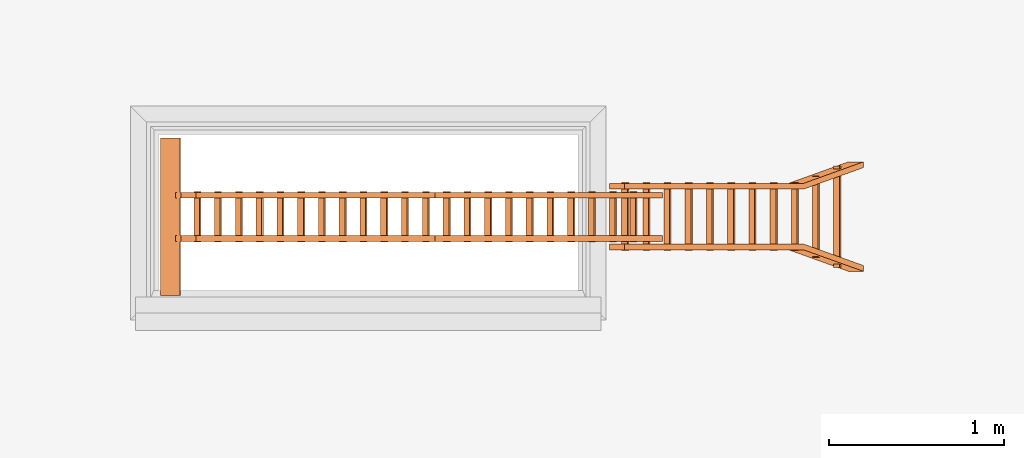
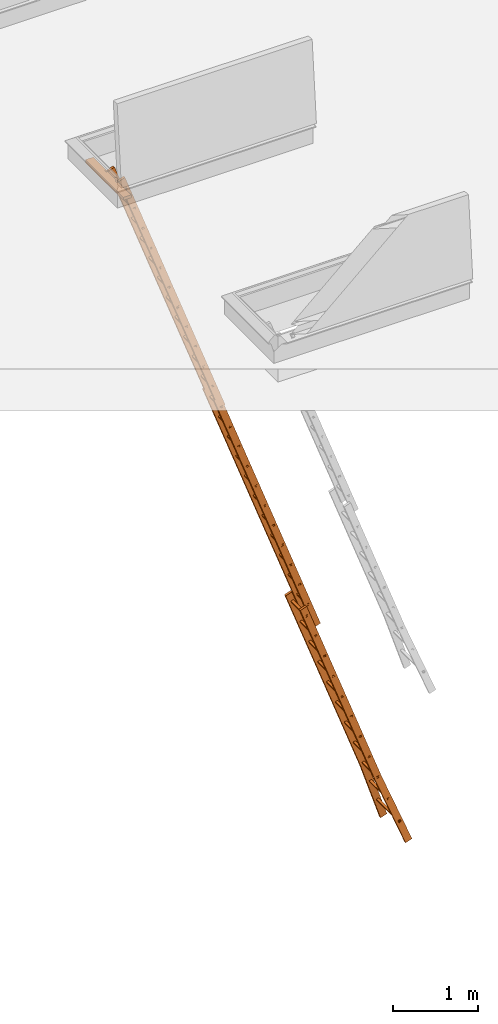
# One storey, part 5 of 28: 1 proxy, 2 openings.
"""IFC2X3 building model written with IfcOpenShell, lengths in millimetres."""

from ifc_helpers import new_model, entity, si_unit, converted_unit, derived_unit, direction, frame, frame_2d, origin, origin_2d_with_axis, place, context, subcontext, project, spatial, polyline, circle_curve, parameter, trimmed, segment, composite_curve, rectangle, outline, extrude, source, transform, mapped, type_object, type_shapes, element, save


model = new_model("IFC2X3")

# Units and contexts
model_context = context("Model", 3, precision=0.01, world=origin(), true_north=direction((6.12303176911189e-17, 1.0)))
body_context = subcontext(model_context, "Body", "Model", "MODEL_VIEW")
ifc_project = project(units=[si_unit("LENGTHUNIT", "METRE", prefix="MILLI"), si_unit("AREAUNIT", "SQUARE_METRE"), si_unit("VOLUMEUNIT", "CUBIC_METRE"), converted_unit("PLANEANGLEUNIT", "DEGREE", entity("IfcRatioMeasure", 0.0174532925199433), si_unit("PLANEANGLEUNIT", "RADIAN"), dimensions=[0, 0, 0, 0, 0, 0, 0]), si_unit("MASSUNIT", "GRAM", prefix="KILO"), derived_unit("MASSDENSITYUNIT", [(si_unit("MASSUNIT", "GRAM", prefix="KILO"), 1), (si_unit("LENGTHUNIT", "METRE"), -3)]), si_unit("TIMEUNIT", "SECOND"), si_unit("FREQUENCYUNIT", "HERTZ"), si_unit("THERMODYNAMICTEMPERATUREUNIT", "DEGREE_CELSIUS"), derived_unit("THERMALTRANSMITTANCEUNIT", [(si_unit("MASSUNIT", "GRAM", prefix="KILO"), 1), (si_unit("THERMODYNAMICTEMPERATUREUNIT", "KELVIN"), -1), (si_unit("TIMEUNIT", "SECOND"), -3)]), derived_unit("VOLUMETRICFLOWRATEUNIT", [(si_unit("LENGTHUNIT", "METRE"), 3), (si_unit("TIMEUNIT", "SECOND"), -1)]), si_unit("ELECTRICCURRENTUNIT", "AMPERE"), si_unit("ELECTRICVOLTAGEUNIT", "VOLT"), si_unit("POWERUNIT", "WATT"), si_unit("FORCEUNIT", "NEWTON", prefix="KILO"), si_unit("ILLUMINANCEUNIT", "LUX"), si_unit("LUMINOUSFLUXUNIT", "LUMEN"), si_unit("LUMINOUSINTENSITYUNIT", "CANDELA"), derived_unit("USERDEFINED", [(si_unit("MASSUNIT", "GRAM", prefix="KILO"), -1), (si_unit("LENGTHUNIT", "METRE"), -2), (si_unit("TIMEUNIT", "SECOND"), 3), (si_unit("LUMINOUSFLUXUNIT", "LUMEN"), 1)]), derived_unit("LINEARVELOCITYUNIT", [(si_unit("LENGTHUNIT", "METRE"), 1), (si_unit("TIMEUNIT", "SECOND"), -1)]), si_unit("PRESSUREUNIT", "PASCAL"), derived_unit("USERDEFINED", [(si_unit("LENGTHUNIT", "METRE"), -2), (si_unit("MASSUNIT", "GRAM", prefix="KILO"), 1), (si_unit("TIMEUNIT", "SECOND"), -2)])], contexts=[model_context])

# Site, building, storey
site_placement = place(None, origin())
site = spatial("IfcSite", under=ifc_project, at=site_placement, Name="Default", CompositionType="ELEMENT")
building_placement = place(site_placement, origin())
building = spatial("IfcBuilding", under=site, at=building_placement, CompositionType="ELEMENT")
storey_placement = place(building_placement, frame((0.0, 0.0, 4000.0)))
storey = spatial("IfcBuildingStorey", under=building, at=storey_placement, Name="Level 2", CompositionType="ELEMENT", Elevation=4000.0)

# Proxy, openings
building_element_proxy_type = type_object("IfcBuildingElementProxyType", Name="9_Topaccess_Trap_3delige1", PredefinedType="NOTDEFINED")
shared_shape = source(origin(), body_context, "Body", "SweptSolid", [
    extrude(outline(composite_curve([segment(polyline([(-20.0, -72.6666666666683), (20.0, -72.6666666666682)]), True, "CONTINUOUS"), segment(polyline([(20.0, -72.6666666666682), (20.0, 31.8333333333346)]), True, "CONTINUOUS"), segment(trimmed(circle_curve(frame_2d((11.0, 31.8333333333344), x_axis=(0.939692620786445, -0.342020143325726)), 8.99999999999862), [parameter(20.0000000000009)], [parameter(109.999999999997)], True, "PARAMETER"), True, "CONTINUOUS"), segment(polyline([(11.0, 40.8333333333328), (-11.0, 40.833333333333)]), True, "CONTINUOUS"), segment(trimmed(circle_curve(frame_2d((-11.0, 31.8333333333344), x_axis=(0.939692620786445, -0.342020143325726)), 8.99999999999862), [parameter(109.999999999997)], [parameter(199.999999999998)], True, "PARAMETER"), True, "CONTINUOUS"), segment(polyline([(-20.0, 31.8333333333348), (-20.0, -72.6666666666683)]), True, "CONTINUOUS")], self_intersect=False)), frame((-484.291584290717, 5437.00468660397, 85.555153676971), z_axis=(1.0, 0.0, 0.0), x_axis=(0.0, 0.939692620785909, 0.342020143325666)), (0.0, 0.0, 1.0), 900.0),
    extrude(outline(composite_curve([segment(polyline([(34.5620685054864, -17.3803405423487), (-85.4379314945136, -17.3803405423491)]), True, "CONTINUOUS"), segment(polyline([(-85.4379314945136, -17.3803405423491), (-85.4379314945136, -20.3803405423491)]), True, "CONTINUOUS"), segment(polyline([(-85.4379314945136, -20.3803405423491), (34.8237042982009, -20.3803405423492)]), True, "CONTINUOUS"), segment(trimmed(circle_curve(frame_2d((31.2529900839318, 0.719659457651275), x_axis=(1.0, 0.0)), 21.4), [parameter(279.605058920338)], [parameter(66.7401617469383)], True, "PARAMETER"), True, "CONTINUOUS"), segment(polyline([(39.7038846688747, 20.3803405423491), (11.3620685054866, 20.380340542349)]), True, "CONTINUOUS"), segment(polyline([(11.3620685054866, 20.380340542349), (11.3620685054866, 17.380340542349)]), True, "CONTINUOUS"), segment(polyline([(11.3620685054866, 17.380340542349), (39.0620685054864, 17.3803405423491)]), True, "CONTINUOUS"), segment(trimmed(circle_curve(frame_2d((31.2529900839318, 0.719659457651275), x_axis=(1.0, 0.0)), 18.4), [parameter(280.36051137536)], [parameter(64.8869014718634)], True, "PARAMETER"), False, "CONTINUOUS")], self_intersect=False)), frame((72.0, 5400.1320556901, 113.619659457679), z_axis=(-1.0, 0.0, 0.0), x_axis=(0.0, 1.0, 0.0)), (0.0, 0.0, -1.0), 33.0),
    extrude(outline(composite_curve([segment(polyline([(-85.4379314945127, -17.3803405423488), (-85.4379314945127, -20.3803405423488)]), True, "CONTINUOUS"), segment(polyline([(-85.4379314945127, -20.3803405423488), (34.8237042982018, -20.3803405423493)]), True, "CONTINUOUS"), segment(trimmed(circle_curve(frame_2d((31.2529900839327, 0.719659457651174), x_axis=(1.0, 0.0)), 21.4), [parameter(279.605058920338)], [parameter(66.7401617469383)], True, "PARAMETER"), True, "CONTINUOUS"), segment(polyline([(39.7038846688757, 20.380340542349), (11.3620685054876, 20.380340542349)]), True, "CONTINUOUS"), segment(polyline([(11.3620685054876, 20.380340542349), (11.3620685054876, 17.380340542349)]), True, "CONTINUOUS"), segment(polyline([(11.3620685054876, 17.380340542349), (39.0620685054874, 17.380340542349)]), True, "CONTINUOUS"), segment(trimmed(circle_curve(frame_2d((31.2529900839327, 0.719659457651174), x_axis=(1.0, 0.0)), 18.4), [parameter(280.36051137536)], [parameter(64.8869014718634)], True, "PARAMETER"), False, "CONTINUOUS"), segment(polyline([(34.5620685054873, -17.3803405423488), (-85.4379314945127, -17.3803405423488)]), True, "CONTINUOUS")], self_intersect=False)), frame((-175.0, 5400.13205569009, 113.619659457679), z_axis=(-1.0, 0.0, 0.0), x_axis=(0.0, 1.0, 0.0)), (0.0, 0.0, -1.0), 33.0000000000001),
    extrude(outline(polyline([(-11.5216143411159, -16.5), (13.8405381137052, -16.5), (13.8405381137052, 16.4999999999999), (-16.1594618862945, 16.5), (-11.5216143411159, -16.5)]), holes=[polyline([(8.84053811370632, -11.5), (-7.1751806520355, -11.5), (-10.4076198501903, 11.5000000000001), (8.84053811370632, 11.5), (8.84053811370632, -11.5)])]), frame((-178.583168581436, 1440.72573419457, 171.084388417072), z_axis=(1.0, 0.0, 0.0), x_axis=(0.0, -1.0, 0.0)), (0.0, 0.0, 1.0), 288.583168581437),
    extrude(outline(polyline([(-11.5216143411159, -16.5), (13.8405381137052, -16.5), (13.8405381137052, 16.4999999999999), (-16.1594618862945, 16.5), (-11.5216143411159, -16.5)]), holes=[polyline([(8.84053811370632, -11.5), (-7.1751806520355, -11.5), (-10.4076198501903, 11.5000000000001), (8.84053811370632, 11.5), (8.84053811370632, -11.5)])]), frame((-178.583168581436, 1093.22573419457, 171.084388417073), z_axis=(1.0, 0.0, 0.0), x_axis=(0.0, -1.0, 0.0)), (0.0, 0.0, 1.0), 288.583168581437),
    extrude(outline(polyline([(-11.5216143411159, -16.5), (13.8405381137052, -16.5), (13.8405381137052, 16.4999999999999), (-16.1594618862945, 16.5), (-11.5216143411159, -16.5)]), holes=[polyline([(8.84053811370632, -11.5), (-7.1751806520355, -11.5), (-10.4076198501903, 11.5000000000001), (8.84053811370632, 11.5), (8.84053811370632, -11.5)])]), frame((-178.583168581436, 745.725734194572, 171.084388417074), z_axis=(1.0, 0.0, 0.0), x_axis=(0.0, -1.0, 0.0)), (0.0, 0.0, 1.0), 288.583168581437),
    extrude(outline(polyline([(-11.5216143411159, -16.5), (13.8405381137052, -16.5), (13.8405381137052, 16.4999999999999), (-16.1594618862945, 16.5), (-11.5216143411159, -16.5)]), holes=[polyline([(8.84053811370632, -11.5), (-7.1751806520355, -11.5), (-10.4076198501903, 11.5000000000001), (8.84053811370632, 11.5), (8.84053811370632, -11.5)])]), frame((-178.583168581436, 398.225734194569, 171.084388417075), z_axis=(1.0, 0.0, 0.0), x_axis=(0.0, -1.0, 0.0)), (0.0, 0.0, 1.0), 288.583168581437),
    extrude(outline(polyline([(-11.5216143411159, -16.5), (13.8405381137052, -16.5), (13.8405381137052, 16.4999999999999), (-16.1594618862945, 16.5), (-11.5216143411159, -16.5)]), holes=[polyline([(8.84053811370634, -11.5), (-7.17518065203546, -11.5), (-10.4076198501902, 11.5000000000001), (8.84053811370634, 11.5), (8.84053811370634, -11.5)])]), frame((-178.583168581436, 50.7257341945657, 171.084388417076), z_axis=(1.0, 0.0, 0.0), x_axis=(0.0, -1.0, 0.0)), (0.0, 0.0, 1.0), 288.583168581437),
    extrude(outline(polyline([(-11.5216143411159, -16.5), (13.8405381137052, -16.5), (13.8405381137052, 16.4999999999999), (-16.1594618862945, 16.5), (-11.5216143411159, -16.5)]), holes=[polyline([(8.84053811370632, -11.5), (-7.17518065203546, -11.5), (-10.4076198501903, 11.5000000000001), (8.84053811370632, 11.5), (8.84053811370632, -11.5)])]), frame((-178.583168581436, -296.774265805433, 171.084388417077), z_axis=(1.0, 0.0, 0.0), x_axis=(0.0, -1.0, 0.0)), (0.0, 0.0, 1.0), 288.583168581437),
    extrude(outline(polyline([(-11.5216143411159, -16.5), (13.8405381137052, -16.5), (13.8405381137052, 16.4999999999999), (-16.1594618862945, 16.5), (-11.5216143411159, -16.5)]), holes=[polyline([(8.84053811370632, -11.5), (-7.1751806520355, -11.5), (-10.4076198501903, 11.5000000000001), (8.84053811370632, 11.5), (8.84053811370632, -11.5)])]), frame((-178.583168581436, -644.274265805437, 171.084388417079), z_axis=(1.0, 0.0, 0.0), x_axis=(0.0, -1.0, 0.0)), (0.0, 0.0, 1.0), 288.583168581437),
    extrude(outline(polyline([(-11.5216143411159, -16.5), (13.8405381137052, -16.5), (13.8405381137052, 16.4999999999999), (-16.1594618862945, 16.5), (-11.5216143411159, -16.5)]), holes=[polyline([(8.84053811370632, -11.5), (-7.1751806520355, -11.5), (-10.4076198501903, 11.5000000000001), (8.84053811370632, 11.5), (8.84053811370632, -11.5)])]), frame((-178.583168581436, -991.774265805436, 171.08438841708), z_axis=(1.0, 0.0, 0.0), x_axis=(0.0, -1.0, 0.0)), (0.0, 0.0, 1.0), 288.583168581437),
    extrude(outline(polyline([(-11.5216143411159, -16.5), (13.8405381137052, -16.5), (13.8405381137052, 16.4999999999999), (-16.1594618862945, 16.5), (-11.5216143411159, -16.5)]), holes=[polyline([(8.84053811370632, -11.5), (-7.1751806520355, -11.5), (-10.4076198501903, 11.5000000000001), (8.84053811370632, 11.5), (8.84053811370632, -11.5)])]), frame((-178.583168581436, -1339.27426580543, 171.084388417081), z_axis=(1.0, 0.0, 0.0), x_axis=(0.0, -1.0, 0.0)), (0.0, 0.0, 1.0), 288.583168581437),
    extrude(outline(polyline([(-11.5216143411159, -16.4999999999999), (13.8405381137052, -16.4999999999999), (13.8405381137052, 16.4999999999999), (-16.1594618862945, 16.5), (-11.5216143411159, -16.4999999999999)]), holes=[polyline([(8.84053811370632, -11.5), (-7.1751806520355, -11.5), (-10.4076198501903, 11.5000000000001), (8.84053811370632, 11.5), (8.84053811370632, -11.5)])]), frame((-178.583168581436, -1686.77426580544, 171.084388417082), z_axis=(1.0, 0.0, 0.0), x_axis=(0.0, -1.0, 0.0)), (0.0, 0.0, 1.0), 288.583168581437),
    extrude(rectangle(XDim=33.0, YDim=4000.0, at=origin_2d_with_axis()), frame((88.5000000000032, -399.911054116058, 120.0), z_axis=(0.0, 0.0, 1.0), x_axis=(-1.0, 0.0, 0.0)), (0.0, 0.0, 1.0), 92.0),
    extrude(rectangle(XDim=33.0, YDim=4000.0, at=frame_2d((8.88178419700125e-15, 0.0), x_axis=(1.0, 0.0))), frame((-158.499999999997, -399.911054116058, 120.0), z_axis=(0.0, 0.0, 1.0), x_axis=(-1.0, 0.0, 0.0)), (0.0, 0.0, 1.0), 92.0),
    extrude(rectangle(XDim=33.0, YDim=4000.0, at=origin_2d_with_axis()), frame((88.5000000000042, 3440.6557599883, 134.0), z_axis=(0.0, 0.0, 1.0), x_axis=(-1.0, 0.0, 0.0)), (0.0, 0.0, 1.0), 90.0),
    extrude(rectangle(XDim=33.0, YDim=4000.0, at=frame_2d((8.88178419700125e-15, -5.6843418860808e-13), x_axis=(1.0, 0.0))), frame((-158.499999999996, 3440.6557599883, 134.0), z_axis=(0.0, 0.0, 1.0), x_axis=(-1.0, 0.0, 0.0)), (0.0, 0.0, 1.0), 90.0),
    extrude(outline(polyline([(-11.5216143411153, -16.5), (13.8405381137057, -16.5), (13.8405381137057, 16.5), (-16.159461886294, 16.5000000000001), (-11.5216143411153, -16.5)]), holes=[polyline([(8.84053811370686, -11.5), (-7.17518065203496, -11.5), (-10.4076198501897, 11.5), (8.84053811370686, 11.5), (8.84053811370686, -11.5)])]), frame((-178.583168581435, 5281.29254829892, 176.084388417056), z_axis=(1.0, 0.0, 0.0), x_axis=(0.0, -1.0, 0.0)), (0.0, 0.0, 1.0), 288.583168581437),
    extrude(outline(polyline([(-11.5216143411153, -16.5), (13.8405381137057, -16.5), (13.8405381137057, 16.5), (-16.159461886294, 16.5000000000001), (-11.5216143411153, -16.5)]), holes=[polyline([(8.84053811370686, -11.5), (-7.17518065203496, -11.5), (-10.4076198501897, 11.5), (8.84053811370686, 11.5), (8.84053811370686, -11.5)])]), frame((-178.583168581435, 4933.79254829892, 176.084388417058), z_axis=(1.0, 0.0, 0.0), x_axis=(0.0, -1.0, 0.0)), (0.0, 0.0, 1.0), 288.583168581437),
    extrude(outline(polyline([(-11.5216143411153, -16.5), (13.8405381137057, -16.5), (13.8405381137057, 16.5), (-16.159461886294, 16.5000000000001), (-11.5216143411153, -16.5)]), holes=[polyline([(8.84053811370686, -11.5), (-7.17518065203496, -11.5), (-10.4076198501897, 11.5), (8.84053811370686, 11.5), (8.84053811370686, -11.5)])]), frame((-178.583168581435, 4586.29254829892, 176.084388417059), z_axis=(1.0, 0.0, 0.0), x_axis=(0.0, -1.0, 0.0)), (0.0, 0.0, 1.0), 288.583168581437),
    extrude(outline(polyline([(-11.5216143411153, -16.5), (13.8405381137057, -16.5), (13.8405381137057, 16.4999999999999), (-16.159461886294, 16.5), (-11.5216143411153, -16.5)]), holes=[polyline([(8.84053811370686, -11.5), (-7.17518065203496, -11.5), (-10.4076198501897, 11.5), (8.84053811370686, 11.4999999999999), (8.84053811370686, -11.5)])]), frame((-178.583168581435, 4238.79254829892, 176.08438841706), z_axis=(1.0, 0.0, 0.0), x_axis=(0.0, -1.0, 0.0)), (0.0, 0.0, 1.0), 288.583168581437),
    extrude(outline(polyline([(-11.5216143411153, -16.5), (13.8405381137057, -16.5), (13.8405381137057, 16.5), (-16.159461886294, 16.5000000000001), (-11.5216143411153, -16.5)]), holes=[polyline([(8.84053811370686, -11.5), (-7.17518065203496, -11.5), (-10.4076198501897, 11.5), (8.84053811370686, 11.5), (8.84053811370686, -11.5)])]), frame((-178.583168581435, 3891.29254829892, 176.084388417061), z_axis=(1.0, 0.0, 0.0), x_axis=(0.0, -1.0, 0.0)), (0.0, 0.0, 1.0), 288.583168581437),
    extrude(outline(polyline([(-11.5216143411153, -16.5), (13.8405381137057, -16.5), (13.8405381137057, 16.5), (-16.159461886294, 16.5000000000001), (-11.5216143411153, -16.5)]), holes=[polyline([(8.84053811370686, -11.5), (-7.17518065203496, -11.5), (-10.4076198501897, 11.5), (8.84053811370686, 11.5), (8.84053811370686, -11.5)])]), frame((-178.583168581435, 3543.79254829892, 176.084388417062), z_axis=(1.0, 0.0, 0.0), x_axis=(0.0, -1.0, 0.0)), (0.0, 0.0, 1.0), 288.583168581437),
    extrude(outline(polyline([(-11.5216143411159, -16.5), (13.8405381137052, -16.5), (13.8405381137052, 16.4999999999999), (-16.1594618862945, 16.5), (-11.5216143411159, -16.5)]), holes=[polyline([(8.84053811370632, -11.5), (-7.1751806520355, -11.5), (-10.4076198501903, 11.5), (8.84053811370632, 11.5), (8.84053811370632, -11.5)])]), frame((-178.583168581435, 3196.29254829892, 176.084388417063), z_axis=(1.0, 0.0, 0.0), x_axis=(0.0, -1.0, 0.0)), (0.0, 0.0, 1.0), 288.583168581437),
    extrude(outline(polyline([(-11.5216143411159, -16.5), (13.8405381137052, -16.5), (13.8405381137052, 16.4999999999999), (-16.1594618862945, 16.5), (-11.5216143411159, -16.5)]), holes=[polyline([(8.84053811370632, -11.5), (-7.1751806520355, -11.5), (-10.4076198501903, 11.5), (8.84053811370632, 11.5), (8.84053811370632, -11.5)])]), frame((-178.583168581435, 2848.79254829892, 176.084388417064), z_axis=(1.0, 0.0, 0.0), x_axis=(0.0, -1.0, 0.0)), (0.0, 0.0, 1.0), 288.583168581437),
    extrude(outline(polyline([(-11.5216143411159, -16.5), (13.8405381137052, -16.5), (13.8405381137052, 16.5), (-16.1594618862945, 16.5000000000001), (-11.5216143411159, -16.5)]), holes=[polyline([(8.84053811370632, -11.5), (-7.1751806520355, -11.5), (-10.4076198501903, 11.5000000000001), (8.84053811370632, 11.5), (8.84053811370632, -11.5)])]), frame((-178.583168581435, 2501.29254829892, 176.084388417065), z_axis=(1.0, 0.0, 0.0), x_axis=(0.0, -1.0, 0.0)), (0.0, 0.0, 1.0), 288.583168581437),
    extrude(outline(polyline([(-11.5216143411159, -16.5), (13.8405381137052, -16.5), (13.8405381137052, 16.5), (-16.1594618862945, 16.5000000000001), (-11.5216143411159, -16.5)]), holes=[polyline([(8.84053811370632, -11.5), (-7.1751806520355, -11.5), (-10.4076198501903, 11.5), (8.84053811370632, 11.5), (8.84053811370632, -11.5)])]), frame((-178.583168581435, 2153.79254829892, 176.084388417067), z_axis=(1.0, 0.0, 0.0), x_axis=(0.0, -1.0, 0.0)), (0.0, 0.0, 1.0), 288.583168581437),
    extrude(outline(polyline([(-11.5216143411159, -16.5), (13.8405381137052, -16.5), (13.8405381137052, 16.4999999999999), (-16.1594618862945, 16.5), (-11.5216143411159, -16.5)]), holes=[polyline([(8.84053811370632, -11.5), (-7.1751806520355, -11.5), (-10.4076198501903, 11.5), (8.84053811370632, 11.5), (8.84053811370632, -11.5)])]), frame((-178.583168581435, 1806.29254829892, 176.084388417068), z_axis=(1.0, 0.0, 0.0), x_axis=(0.0, -1.0, 0.0)), (0.0, 0.0, 1.0), 288.583168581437),
    extrude(outline(polyline([(-11.5216143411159, -16.5), (13.8405381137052, -16.5), (13.8405381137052, 16.4999999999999), (-16.1594618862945, 16.5), (-11.5216143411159, -16.5)]), holes=[polyline([(8.84053811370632, -11.5), (-7.1751806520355, -11.5), (-10.4076198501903, 11.5), (8.84053811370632, 11.5), (8.84053811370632, -11.5)])]), frame((-227.077291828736, -2129.53575748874, 85.0843884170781), z_axis=(1.0, 0.0, 0.0), x_axis=(0.0, -1.0, 0.0)), (0.0, 0.0, 1.0), 389.077291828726),
    extrude(outline(polyline([(-11.5216143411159, -16.5), (13.8405381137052, -16.5), (13.8405381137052, 16.5), (-16.1594618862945, 16.5), (-11.5216143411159, -16.5)]), holes=[polyline([(8.84053811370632, -11.5), (-7.1751806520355, -11.5), (-10.4076198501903, 11.5), (8.84053811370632, 11.5), (8.84053811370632, -11.5)])]), frame((-227.077291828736, -2484.53575748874, 85.0843884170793), z_axis=(1.0, 0.0, 0.0), x_axis=(0.0, -1.0, 0.0)), (0.0, 0.0, 1.0), 389.077291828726),
    extrude(outline(polyline([(-11.5216143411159, -16.5), (13.8405381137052, -16.5), (13.8405381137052, 16.4999999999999), (-16.1594618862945, 16.5), (-11.5216143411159, -16.5)]), holes=[polyline([(8.84053811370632, -11.5), (-7.1751806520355, -11.5), (-10.4076198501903, 11.5), (8.84053811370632, 11.5), (8.84053811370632, -11.5)])]), frame((-227.077291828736, -2839.53575748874, 85.0843884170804), z_axis=(1.0, 0.0, 0.0), x_axis=(0.0, -1.0, 0.0)), (0.0, 0.0, 1.0), 389.077291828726),
    extrude(outline(polyline([(-11.5216143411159, -16.5), (13.8405381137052, -16.5), (13.8405381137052, 16.4999999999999), (-16.1594618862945, 16.5), (-11.5216143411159, -16.5)]), holes=[polyline([(8.84053811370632, -11.5), (-7.1751806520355, -11.5), (-10.4076198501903, 11.5000000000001), (8.84053811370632, 11.5), (8.84053811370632, -11.5)])]), frame((-178.583168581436, -2034.27426580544, 171.084388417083), z_axis=(1.0, 0.0, 0.0), x_axis=(0.0, -1.0, 0.0)), (0.0, 0.0, 1.0), 288.583168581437),
    extrude(outline(polyline([(-11.5216143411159, -16.5), (13.8405381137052, -16.5), (13.8405381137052, 16.4999999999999), (-16.1594618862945, 16.5), (-11.5216143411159, -16.5)]), holes=[polyline([(8.84053811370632, -11.5), (-7.1751806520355, -11.5), (-10.4076198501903, 11.5), (8.84053811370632, 11.5), (8.84053811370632, -11.5)])]), frame((-227.077291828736, -3194.53575748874, 85.0843884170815), z_axis=(1.0, 0.0, 0.0), x_axis=(0.0, -1.0, 0.0)), (0.0, 0.0, 1.0), 389.077291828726),
    extrude(outline(polyline([(-11.5216143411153, -16.5), (13.8405381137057, -16.5), (13.8405381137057, 16.4999999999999), (-16.159461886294, 16.5), (-11.5216143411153, -16.5)]), holes=[polyline([(8.84053811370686, -11.5), (-7.17518065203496, -11.5), (-10.4076198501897, 11.5), (8.84053811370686, 11.5), (8.84053811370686, -11.5)])]), frame((-227.077291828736, -3549.53575748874, 85.0843884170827), z_axis=(1.0, 0.0, 0.0), x_axis=(0.0, -1.0, 0.0)), (0.0, 0.0, 1.0), 389.077291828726),
    extrude(outline(polyline([(-11.5216143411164, -16.5), (13.8405381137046, -16.5), (13.8405381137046, 16.5), (-16.159461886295, 16.5), (-11.5216143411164, -16.5)]), holes=[polyline([(8.84053811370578, -11.5), (-7.17518065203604, -11.5), (-10.4076198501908, 11.5), (8.84053811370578, 11.5), (8.84053811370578, -11.5)])]), frame((-227.077291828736, -3904.53575748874, 85.0843884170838), z_axis=(1.0, 0.0, 0.0), x_axis=(0.0, -1.0, 0.0)), (0.0, 0.0, 1.0), 389.077291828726),
    extrude(outline(polyline([(-11.5216143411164, -16.5), (13.8405381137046, -16.5), (13.8405381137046, 16.5), (-16.159461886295, 16.5000000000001), (-11.5216143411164, -16.5)]), holes=[polyline([(8.84053811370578, -11.5), (-7.17518065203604, -11.5), (-10.4076198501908, 11.5000000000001), (8.84053811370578, 11.5), (8.84053811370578, -11.5)])]), frame((-227.077291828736, -4259.53575748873, 85.084388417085), z_axis=(1.0, 0.0, 0.0), x_axis=(0.0, -1.0, 0.0)), (0.0, 0.0, 1.0), 389.077291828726),
    extrude(outline(polyline([(-11.5216143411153, -16.5), (13.8405381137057, -16.5), (13.8405381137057, 16.5), (-16.159461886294, 16.5000000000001), (-11.5216143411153, -16.5)]), holes=[polyline([(8.84053811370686, -11.5), (-7.17518065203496, -11.5), (-10.4076198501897, 11.5000000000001), (8.84053811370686, 11.5), (8.84053811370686, -11.5)])]), frame((-227.077291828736, -4614.53575748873, 85.0843884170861), z_axis=(1.0, 0.0, 0.0), x_axis=(0.0, -1.0, 0.0)), (0.0, 0.0, 1.0), 389.077291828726),
    extrude(outline(polyline([(-11.5216143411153, -16.5), (13.8405381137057, -16.5), (13.8405381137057, 16.5), (-16.159461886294, 16.5000000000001), (-11.5216143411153, -16.5)]), holes=[polyline([(8.84053811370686, -11.5), (-7.17518065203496, -11.5), (-10.4076198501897, 11.5000000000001), (8.84053811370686, 11.5), (8.84053811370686, -11.5)])]), frame((-227.077291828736, -4969.53575748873, 85.0843884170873), z_axis=(1.0, 0.0, 0.0), x_axis=(0.0, -1.0, 0.0)), (0.0, 0.0, 1.0), 389.077291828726),
    extrude(outline(polyline([(-11.5216143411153, -16.5), (13.8405381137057, -16.5), (13.8405381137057, 16.5), (-16.159461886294, 16.5000000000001), (-11.5216143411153, -16.5)]), holes=[polyline([(8.84053811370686, -11.5), (-7.17518065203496, -11.5), (-10.4076198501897, 11.5), (8.84053811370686, 11.5), (8.84053811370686, -11.5)])]), frame((-266.000121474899, -5324.53575748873, 85.0843884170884), z_axis=(1.0, 0.0, 0.0), x_axis=(0.0, -1.0, 0.0)), (0.0, 0.0, 1.0), 465.000121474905),
    extrude(outline(polyline([(-11.5216143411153, -16.5), (13.8405381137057, -16.5), (13.8405381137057, 16.5), (-16.159461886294, 16.5000000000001), (-11.5216143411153, -16.5)]), holes=[polyline([(8.84053811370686, -11.5), (-7.17518065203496, -11.5), (-10.4076198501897, 11.5000000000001), (8.84053811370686, 11.5), (8.84053811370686, -11.5)])]), frame((-323.951711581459, -5679.53575748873, 85.0843884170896), z_axis=(1.0, 0.0, 0.0), x_axis=(0.0, -1.0, 0.0)), (0.0, 0.0, 1.0), 580.345535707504),
    extrude(outline(polyline([(652.705853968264, -138.16622783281), (1663.21970450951, -138.16622783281), (1667.27159501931, -105.166227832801), (656.727542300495, -105.412204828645), (-2317.9515037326, 259.832455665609), (-2321.97319206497, 227.078432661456), (652.705853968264, -138.16622783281)])), frame((181.59152386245, -4331.59474961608, 35.4999999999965), z_axis=(0.0, 0.0, 1.0), x_axis=(0.121869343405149, -0.992546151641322, 0.0)), (0.0, 0.0, 1.0), 92.0),
    extrude(outline(polyline([(655.058107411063, 105.207223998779), (1667.6054819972, 105.207223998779), (1663.55359148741, 138.207223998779), (653.039740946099, 138.207223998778), (-2321.63930508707, -227.037436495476), (-2317.6176167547, -259.791459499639), (655.058107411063, 105.207223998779)])), frame((-247.591523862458, -4331.25835520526, 35.4999999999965), z_axis=(0.0, 0.0, 1.0), x_axis=(-0.121869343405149, -0.992546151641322, 0.0)), (0.0, 0.0, 1.0), 92.0),
])
type_shapes(building_element_proxy_type, [shared_shape])
proxy_placement = place(storey_placement, frame((-17541.0968787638, 9586.78291614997, -4726.49653876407), z_axis=(0.939692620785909, 0.0, 0.342020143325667), x_axis=(0.0, 1.0, 0.0)))
proxy = element("IfcBuildingElementProxy", 1, at=proxy_placement, inside=storey, type_object=building_element_proxy_type, Name="9_Topaccess_Trap_3delige1:9_Topaccess_Trap_3delige1", ObjectType="9_Topaccess_Trap_3delige1", context=body_context, shape_type="MappedRepresentation", body=[
    mapped(shared_shape, transform((0.0, 0.0, 0.0), scale=1.0)),
])
opening_1_placement = place(storey_placement, frame((-17541.0968787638, 9586.78291614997, -726.496538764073), z_axis=(0.321393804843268, 0.939692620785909, 0.11697777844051), x_axis=(-0.342020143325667, 0.0, 0.939692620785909)))
element("IfcOpeningElement", 2, at=opening_1_placement, cuts=proxy, Name="9_Topaccess_Trap_3delige1:9_Topaccess_Trap_3delige1:1", ObjectType="Opening", context=body_context, shape_type="SweptSolid", body=[
    extrude(rectangle(XDim=42.5298592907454, YDim=59.0000000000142, at=frame_2d((1.4210854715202e-14, 0.0), x_axis=(1.0, 0.0))), frame((5417.83179579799, -3629.61402459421, -1489.74364376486), z_axis=(0.939692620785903, 0.321393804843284, 0.116977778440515), x_axis=(0.342020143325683, -0.883022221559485, -0.321393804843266)), (0.0, 0.0, 1.0), 40.0),
])
opening_2_placement = place(storey_placement, frame((-17541.0968787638, 9586.78291614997, -726.496538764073), z_axis=(0.321393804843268, 0.939692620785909, 0.11697777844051), x_axis=(-0.342020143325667, 0.0, 0.939692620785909)))
element("IfcOpeningElement", 3, at=opening_2_placement, cuts=proxy, Name="9_Topaccess_Trap_3delige1:9_Topaccess_Trap_3delige1:2", ObjectType="Opening", context=body_context, shape_type="SweptSolid", body=[
    extrude(rectangle(XDim=42.5298592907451, YDim=59.0000000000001, at=frame_2d((1.4210854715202e-13, 0.0), x_axis=(1.0, 0.0))), frame((5417.83179579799, -3714.09299999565, -1257.63956643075), z_axis=(0.939692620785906, 0.321393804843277, 0.116977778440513), x_axis=(0.342020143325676, -0.883022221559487, -0.321393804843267)), (0.0, 0.0, 1.0), 40.0000000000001),
])

save(model, "model.ifc")
